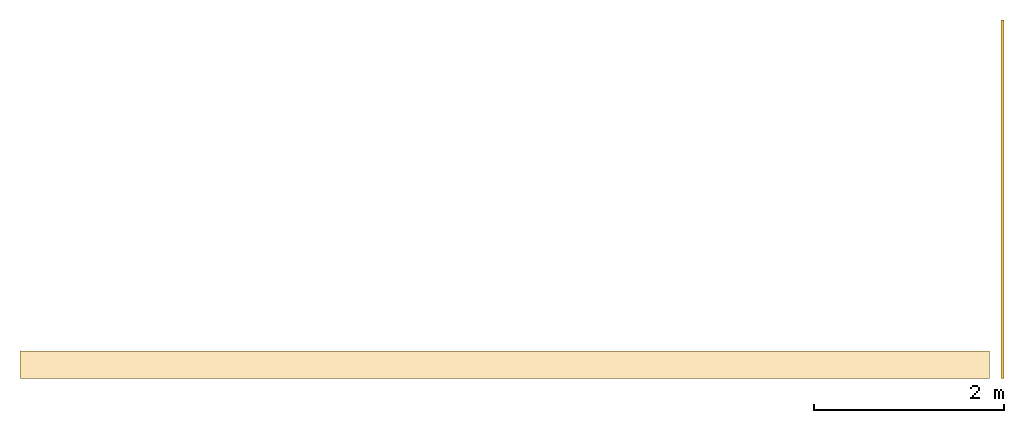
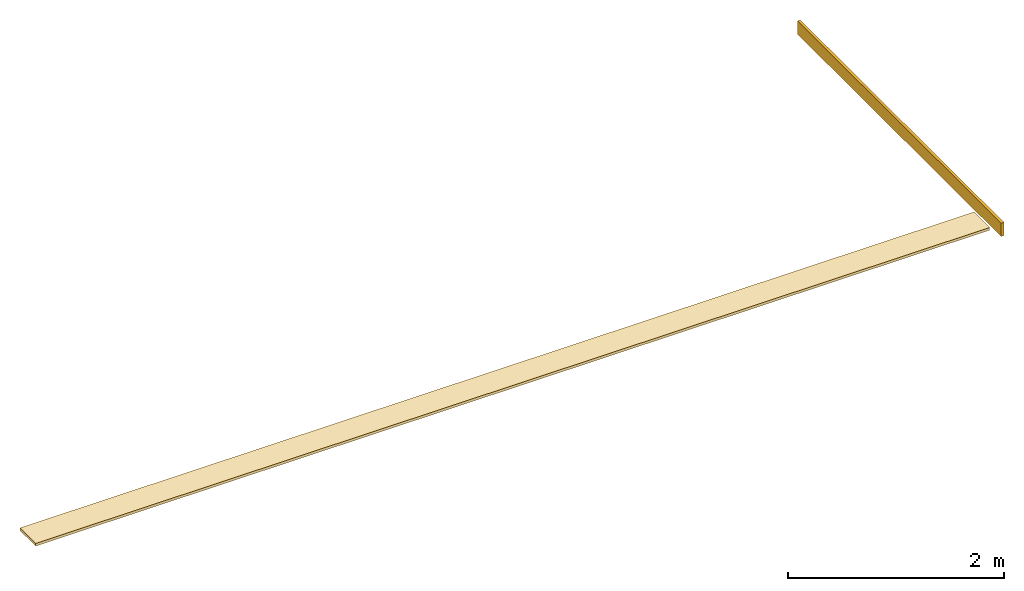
# One storey: 4 coverings.
"""IFC2X3 building model written with IfcOpenShell, lengths in millimetres."""

from ifc_helpers import new_model, entity, si_unit, converted_unit, derived_unit, direction, frame, origin_with_axes, place, context, subcontext, project, spatial, faceted_brep, element, save


model = new_model("IFC2X3")

# Units and contexts
model_context = context("Model", 3, precision=0.01, world=frame((0.0, 4.29681676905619e-09, 0.0)), true_north=direction((6.12323399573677e-17, 1.0)))
plan_context = context("Plan", 3, precision=0.01, world=frame((0.0, 4.29681676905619e-09, 0.0)), true_north=direction((6.12323399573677e-17, 1.0)))
body_context = subcontext(model_context, "Body", "Model", "MODEL_VIEW")
ifc_project = project(units=[converted_unit("PLANEANGLEUNIT", "DEGREE", entity("IfcPositiveLengthMeasure", 0.0174532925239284), si_unit("PLANEANGLEUNIT", "RADIAN"), dimensions=[0, 0, 0, 0, 0, 0, 0]), si_unit("AREAUNIT", "SQUARE_METRE"), si_unit("LENGTHUNIT", "METRE", prefix="MILLI"), si_unit("MASSUNIT", "GRAM", prefix="KILO"), si_unit("POWERUNIT", "WATT"), si_unit("PRESSUREUNIT", "PASCAL", prefix="KILO"), si_unit("FORCEUNIT", "NEWTON", prefix="KILO"), si_unit("ELECTRICVOLTAGEUNIT", "VOLT"), si_unit("ELECTRICCURRENTUNIT", "AMPERE"), si_unit("THERMODYNAMICTEMPERATUREUNIT", "DEGREE_CELSIUS"), si_unit("TIMEUNIT", "SECOND"), si_unit("VOLUMEUNIT", "CUBIC_METRE"), derived_unit("LINEARVELOCITYUNIT", [(si_unit("LENGTHUNIT", "METRE"), 1), (si_unit("TIMEUNIT", "SECOND"), -1)]), derived_unit("VOLUMETRICFLOWRATEUNIT", [(si_unit("VOLUMEUNIT", "CUBIC_METRE"), 1), (si_unit("TIMEUNIT", "SECOND"), -1)]), derived_unit("THERMALTRANSMITTANCEUNIT", [(si_unit("POWERUNIT", "WATT"), 1), (si_unit("THERMODYNAMICTEMPERATUREUNIT", "KELVIN"), -1), (si_unit("AREAUNIT", "SQUARE_METRE"), -1)]), derived_unit("SOUNDPRESSUREUNIT", [(si_unit("PRESSUREUNIT", "PASCAL"), 1)])], contexts=[model_context, plan_context])

# Site, building, storey
site_placement = place(None, frame((0.0, -4.29681676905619e-09, 0.0), z_axis=(0.0, 0.0, 1.0), x_axis=(1.0, 0.0, 0.0)))
site = spatial("IfcSite", under=ifc_project, at=site_placement, Name="Gardermoen", CompositionType="ELEMENT")
building_placement = place(site_placement, frame((0.0, 4.29681676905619e-09, 0.0), z_axis=(0.0, 0.0, 1.0), x_axis=(1.0, 0.0, 0.0)))
building = spatial("IfcBuilding", under=site, at=building_placement, Name="THO", CompositionType="ELEMENT")
storey_placement = place(building_placement, origin_with_axes())
storey = spatial("IfcBuildingStorey", under=building, at=storey_placement, Name="Nivå G", CompositionType="ELEMENT", Elevation=0.0)

# Coverings
for number, where, z_axis, x_axis, name in (
    (1, (1115942.50238568, 462212.509560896, 213680.000772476), (0.0, 1.0, 0.0), (1.0, 0.0, 0.0), "SurfaceTreatment"),
    (2, (1115942.50238568, 462212.509560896, 213680.000772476), (0.0, 1.0, 0.0), (1.0, 0.0, 0.0), "SurfaceTreatment"),
):
    element("IfcCovering", number, at=place(storey_placement, frame(where, z_axis=z_axis, x_axis=x_axis)), inside=storey, Name=name, PredefinedType="NOTDEFINED", context=body_context, shape_type="Brep", body=[
        faceted_brep([(67.4976143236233, -15.0, 439.990899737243), (67.4976143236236, 15.0, 439.990899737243), (10257.4404296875, 15.0, 439.989990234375), (10257.4404296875, -15.0, 439.989990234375), (10257.4404296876, 15.0, 149.990439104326), (10257.4404296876, -15.0, 149.990439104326), (67.4976143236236, 15.0, 149.990439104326), (67.4976143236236, -15.0, 149.990439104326)], [[[0, 1, 2, 3]], [[4, 5, 3, 2]], [[1, 6, 4, 2]], [[5, 7, 0, 3]], [[6, 1, 0, 7]], [[7, 5, 4, 6]]], orient=[[False], [False], [False], [False], [False], [False]]),
    ])
for number, where, z_axis, x_axis, name in (
    (3, (1126337.49744698, 455415.520786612, 213810.002746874), (0.0, 1.0, 0.0), (0.0, 0.0, -1.0), "SurfaceTreatment"),
    (4, (1126337.49744698, 455415.520786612, 213810.002746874), (0.0, 1.0, 0.0), (0.0, 0.0, -1.0), "SurfaceTreatment"),
):
    element("IfcCovering", number, at=place(storey_placement, frame(where, z_axis=z_axis, x_axis=x_axis)), inside=storey, Name=name, PredefinedType="NOTDEFINED", context=body_context, shape_type="Brep", body=[
        faceted_brep([(110.002746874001, -14.9999999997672, 10714.978515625), (110.002746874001, 15.0000000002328, 10714.978515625), (260.0, 15.0000000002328, 10714.978515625), (260.0, -14.9999999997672, 10714.978515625), (260.0, 15.0000000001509, 6946.97921338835), (260.0, -14.9999999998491, 6946.97921338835), (110.002746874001, 15.0000000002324, 6946.97921338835), (110.002746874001, -15.0, 6946.97921338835)], [[[0, 1, 2, 3]], [[4, 5, 3, 2]], [[1, 6, 4, 2]], [[5, 7, 0, 3]], [[7, 5, 4, 6]], [[6, 1, 0, 7]]], orient=[[False], [False], [False], [False], [False], [False]]),
    ])

save(model, "model.ifc")
